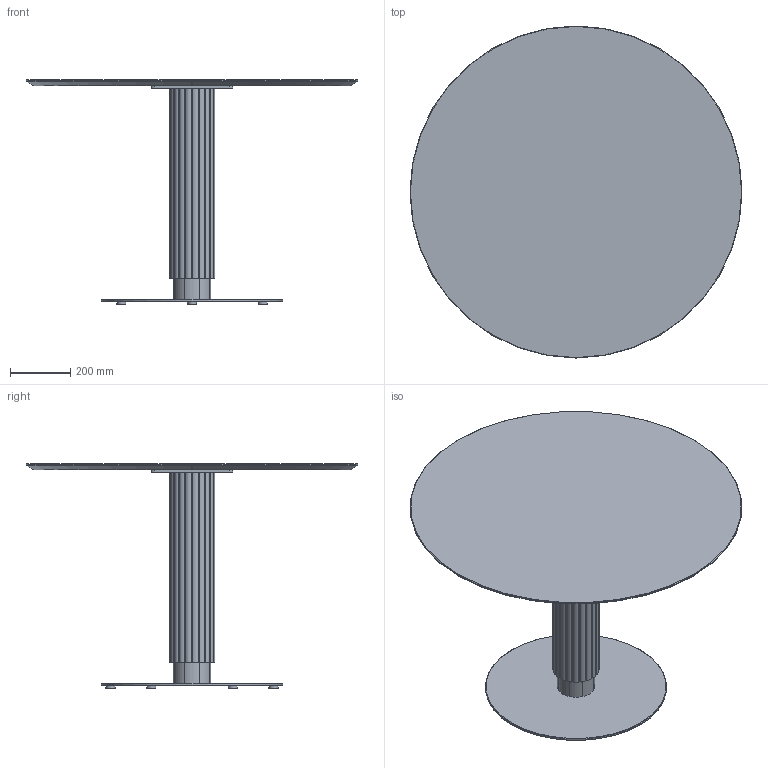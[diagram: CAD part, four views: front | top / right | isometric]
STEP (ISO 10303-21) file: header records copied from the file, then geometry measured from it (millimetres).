
FILE_DESCRIPTION( ('This file contains a STEP AP42 implementation' ,'as created by ZW3D STEP Interface translator.') ,'2;1' );
FILE_NAME( 'God - B_Rond - F1 - M5 - 1100 x 1100 x 750.stp' ,'24 912.114152', (''), ('ZWCAD Software Co.'), 'Version 1.0', 'ZW3D to STEP translator', '' );
FILE_SCHEMA(('AUTOMOTIVE_DESIGN { 1 0 10303 214 1 1 1 1 }'));
Length unit declared in the file: millimetre
Products named in the file (15): 0; PIED BISTROT PARAMETRIQUE_; CROIX ACIER 370 V.02_; CRX-X370-02_; SOCLE ACIER C Ø600 V.02_; SCL-D600-02_; PLA-R30A-01_; PLA-R30A-01; COLONNE ACIER Ø48.5 V.02_; TUB-D048-02_; PLA-R48A-01_; Colonne GODRON H700_; WUERTH 0276063020 Euro-screw 6.3x2 Verzinkt_; PLATEAU BISTROT PARAMETRIQUE_; insert_m6_13_
Assembly tree (25 placements, depth 3):
  0
  PIED BISTROT PARAMETRIQUE_
    CROIX ACIER 370 V.02_
      CRX-X370-02_
    SOCLE ACIER C Ø600 V.02_
      SCL-D600-02_
      PLA-R30A-01_
      PLA-R30A-01  x5
    COLONNE ACIER Ø48.5 V.02_
      TUB-D048-02_
      PLA-R48A-01_  x2
    Colonne GODRON H700_
    WUERTH 0276063020 Euro-screw 6.3x2 Verzinkt_
    PLATEAU BISTROT PARAMETRIQUE_
      insert_m6_13_  x8
Bounding box: 1100 x 1100 x 744 mm (x, y, z)
Volume: 31677953.7 mm3; surface area: 3929348.6 mm2
Topology: 29 solids, 29 shells, 656 faces, 1625 edges, 1042 vertices
Faces by surface type: plane 294, cylinder 193, bspline 125, cone 43, torus 1
Full cylindrical faces by diameter (mm): 4.88 x1, 6 x8, 6.3 x1, 8 x47, 12 x2, 14 x2, 30 x6, 44.5 x3, 48.5 x1, 600 x1
Entity records: 16246 total; most frequent: CARTESIAN_POINT 4067, DIRECTION 2241, ORIENTED_EDGE 2240, EDGE_CURVE 1120, AXIS2_PLACEMENT_3D 796, VERTEX_POINT 728, VECTOR 649, LINE 649
